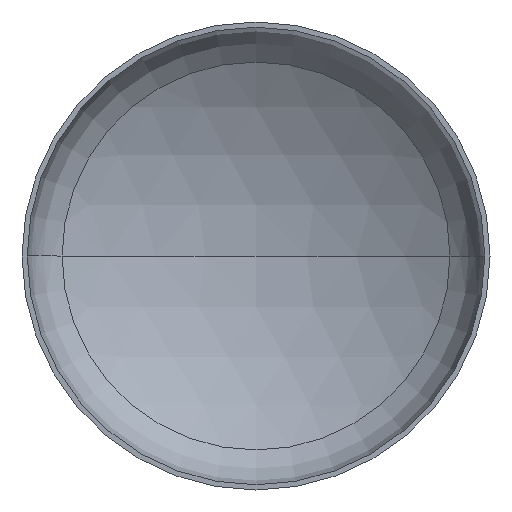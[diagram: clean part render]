
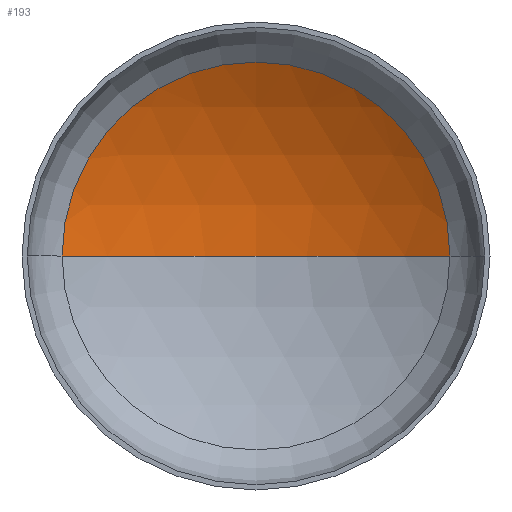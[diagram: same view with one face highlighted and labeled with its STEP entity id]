
A CAD part, front view. The second image highlights one B-rep face of the part: STEP entity #193.
In plain terms, the highlighted spherical face has radius 3600 mm.
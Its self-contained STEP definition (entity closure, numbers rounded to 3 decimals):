
#10 = EDGE_LOOP ( 'NONE', ( #87, #34, #134 ) ) ;
#11 = AXIS2_PLACEMENT_3D ( 'NONE', #391, #316, #169 ) ;
#17 = AXIS2_PLACEMENT_3D ( 'NONE', #165, #153, #164 ) ;
#18 = FACE_OUTER_BOUND ( 'NONE', #10, .T. ) ;
#27 = AXIS2_PLACEMENT_3D ( 'NONE', #387, #401, #400 ) ;
#34 = ORIENTED_EDGE ( 'NONE', *, *, #310, .T. ) ;
#44 = AXIS2_PLACEMENT_3D ( 'NONE', #185, #184, #363 ) ;
#87 = ORIENTED_EDGE ( 'NONE', *, *, #329, .F. ) ;
#92 = VERTEX_POINT ( 'NONE', #368 ) ;
#99 = VERTEX_POINT ( 'NONE', #299 ) ;
#114 = VERTEX_POINT ( 'NONE', #317 ) ;
#134 = ORIENTED_EDGE ( 'NONE', *, *, #343, .T. ) ;
#149 = CIRCLE ( 'NONE', #17, 3600. ) ;
#153 = DIRECTION ( 'NONE',  ( 0., 0., 1. ) ) ;
#155 = CIRCLE ( 'NONE', #27, 3600. ) ;
#164 = DIRECTION ( 'NONE',  ( 1., 0., 0. ) ) ;
#165 = CARTESIAN_POINT ( 'NONE',  ( 0., -2334.754, 0. ) ) ;
#169 = DIRECTION ( 'NONE',  ( 1., 0., 0. ) ) ;
#184 = DIRECTION ( 'NONE',  ( 0., 0., -1. ) ) ;
#185 = CARTESIAN_POINT ( 'NONE',  ( 0., -2334.754, 0. ) ) ;
#193 = ADVANCED_FACE ( 'NONE', ( #18 ), #289, .F. ) ;
#289 = SPHERICAL_SURFACE ( 'NONE', #44, 3600. ) ;
#299 = CARTESIAN_POINT ( 'NONE',  ( 0., 1265.246, 0. ) ) ;
#310 = EDGE_CURVE ( 'NONE', #99, #114, #155, .T. ) ;
#316 = DIRECTION ( 'NONE',  ( 0., -1., 0. ) ) ;
#317 = CARTESIAN_POINT ( 'NONE',  ( 1865.06, 744.459, 0. ) ) ;
#329 = EDGE_CURVE ( 'NONE', #99, #92, #149, .T. ) ;
#334 = CIRCLE ( 'NONE', #11, 1865.06 ) ;
#343 = EDGE_CURVE ( 'NONE', #114, #92, #334, .T. ) ;
#363 = DIRECTION ( 'NONE',  ( -1., 0., 0. ) ) ;
#368 = CARTESIAN_POINT ( 'NONE',  ( -1865.06, 744.459, 0. ) ) ;
#387 = CARTESIAN_POINT ( 'NONE',  ( 0., -2334.754, 0. ) ) ;
#391 = CARTESIAN_POINT ( 'NONE',  ( 0., 744.459, 0. ) ) ;
#400 = DIRECTION ( 'NONE',  ( -1., 0., 0. ) ) ;
#401 = DIRECTION ( 'NONE',  ( 0., 0., -1. ) ) ;
